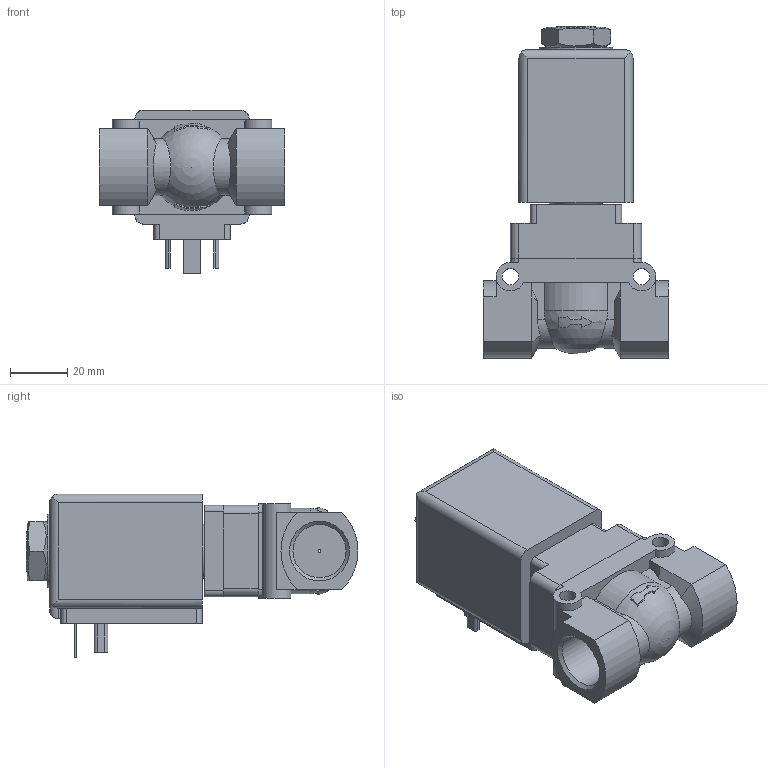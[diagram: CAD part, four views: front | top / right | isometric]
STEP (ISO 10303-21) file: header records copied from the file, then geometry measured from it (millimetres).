
FILE_DESCRIPTION(/* description */ ('STEP AP214'),/* implementation_level */ '2;1');
FILE_NAME(/* name */ '5404-304203-Servo-assisted_2_2_way_piston_valve',/* time_stamp */ '2024-02-27T17:47:08+01:00',/* author */ ('License CC BY-ND 4.0'),/* organization */ ('CADENAS'),/* preprocessor_version */ 'ST-DEVELOPER v19.3',/* originating_system */ 'PARTsolutions',/* authorisation */ ' ');
FILE_SCHEMA (('AUTOMOTIVE_DESIGN {1 0 10303 214 3 1 1}'));
Length unit declared in the file: millimetre
Products named in the file (4): 5404-304203-Servo-assisted 2/2 way piston valve; 5282g-8412MS000-2/2-Wege-Magnetventil_Gehaeuse; 5282d-12MSAZ4_ON-2/2-Wege-Magnetventil_Deckel; 6213sp 40 Plan 40
Assembly tree (3 placements, depth 2):
  5404-304203-Servo-assisted 2/2 way piston valve
    5282g-8412MS000-2/2-Wege-Magnetventil_Gehaeuse
    5282d-12MSAZ4_ON-2/2-Wege-Magnetventil_Deckel
    6213sp 40 Plan 40
Bounding box: 65 x 116.4 x 57.5 mm (x, y, z)
Volume: 163603.1 mm3; surface area: 32186.6 mm2
Topology: 3 solids, 3 shells, 177 faces, 467 edges, 307 vertices
Faces by surface type: plane 113, cylinder 50, cone 10, sphere 3, torus 1
Full cylindrical faces by diameter (mm): 1 x1, 2.45 x1, 5.8 x2, 14 x1, 18.631 x2, 25.9 x1
Entity records: 6027 total; most frequent: CARTESIAN_POINT 1049, DIRECTION 936, ORIENTED_EDGE 888, EDGE_CURVE 444, AXIS2_PLACEMENT_3D 339, VERTEX_POINT 298, LINE 258, VECTOR 258
